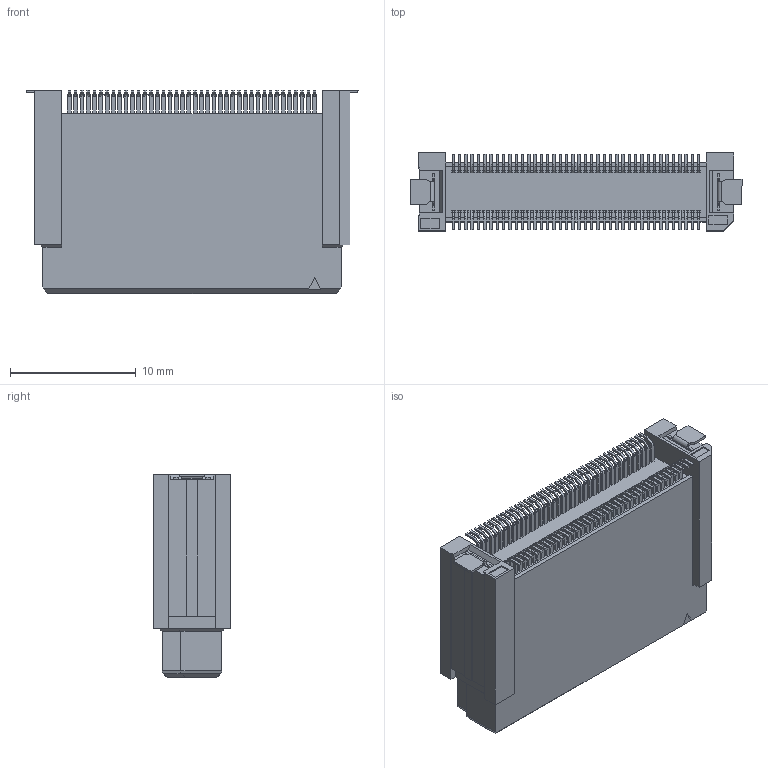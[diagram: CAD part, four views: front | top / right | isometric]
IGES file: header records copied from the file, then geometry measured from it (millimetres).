
Start section: Elysium IGES Interface
Global section: file name: 108HG:\その他\DT関連\【59期以前】\DT_CADﾃﾞｰﾀ\DT_3DCAD(客先提出用)\プラグ\-18\web用\igs\P3D522_DT10-080S-18-T.igs; native system: Creo Elements/Direct Modeling 20.4A  18-Oct-2021; preprocessor: Creo Element/Direct IGES_3D V2.2; author: Unknown; organization: Unknown; date: 20220316.144009; units: millimetre
Bounding box: 26.4 x 6.2 x 16.18 mm (x, y, z)
Volume: 1679.2 mm3; surface area: 1621.4 mm2
Topology: 1 solids, 1 shells, 2483 faces, 6994 edges, 4600 vertices
Faces by surface type: bspline 2483
